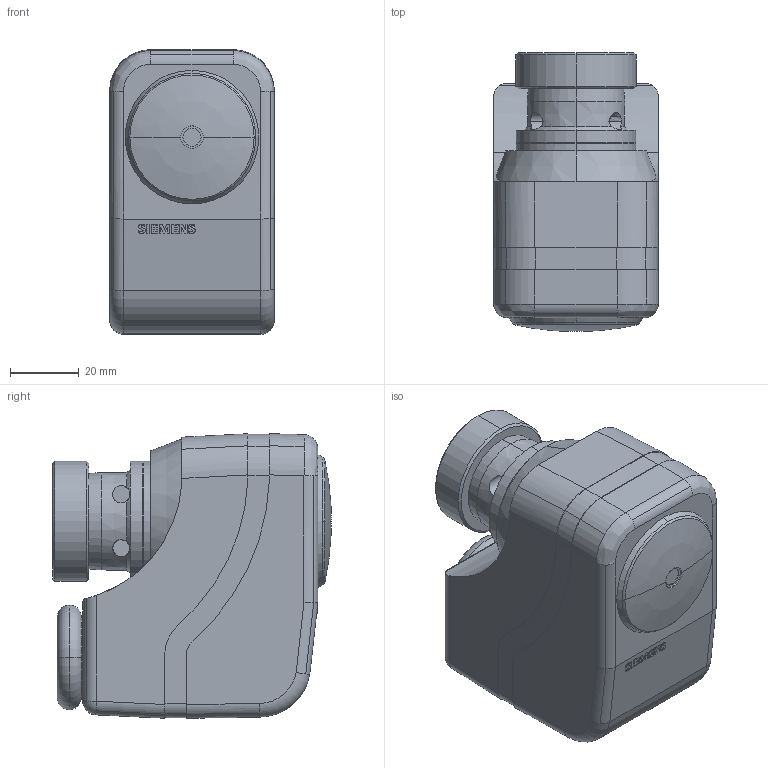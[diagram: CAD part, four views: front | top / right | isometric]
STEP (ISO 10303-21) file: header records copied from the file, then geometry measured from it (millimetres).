
FILE_DESCRIPTION((''),'2;1');
FILE_NAME('SSB31_61_81.dwg.stp','2006-10-04T11:32:44',(''),(''),'Mechanical Desktop 2006','Mechanical Desktop 2006',', , ');
FILE_SCHEMA(('AUTOMOTIVE_DESIGN { 1 2 10303 214 0 1 1 1 }'));
Length unit declared in the file: millimetre
Products named in the file (1): Product
Bounding box: 48 x 81.31 x 83 mm (x, y, z)
Volume: 240766 mm3; surface area: 53581.1 mm2
Topology: 16 solids, 16 shells, 322 faces, 834 edges, 545 vertices
Faces by surface type: cylinder 167, plane 119, cone 16, bspline 10, torus 8, sphere 2
Entity records: 10689 total; most frequent: CARTESIAN_POINT 2514, DIRECTION 1787, ORIENTED_EDGE 1664, EDGE_CURVE 832, AXIS2_PLACEMENT_3D 680, VERTEX_POINT 545, VECTOR 427, LINE 427
